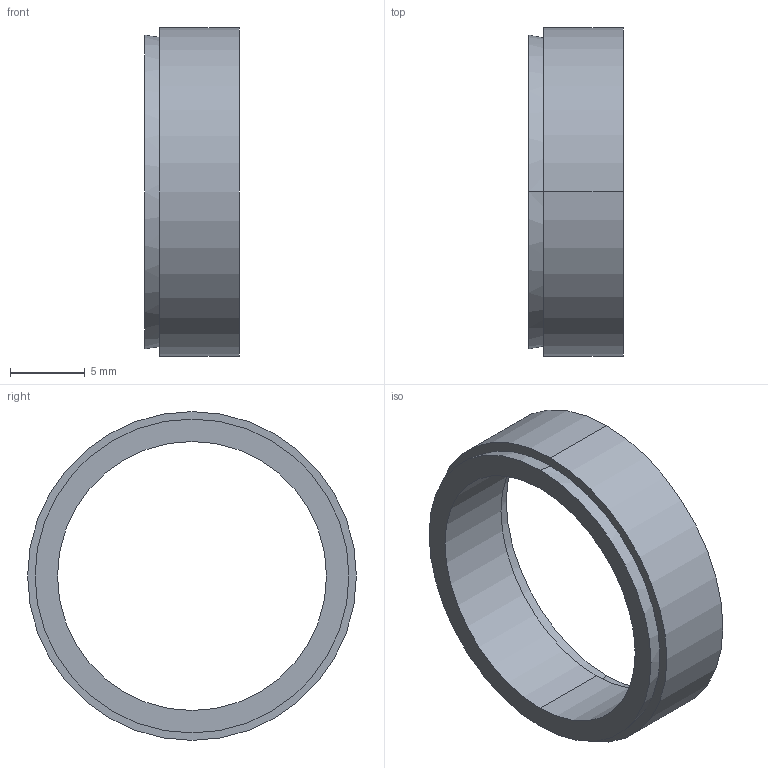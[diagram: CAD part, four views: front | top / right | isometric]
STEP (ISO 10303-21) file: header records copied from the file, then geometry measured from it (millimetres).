
FILE_DESCRIPTION (( 'STEP AP203' ), '1' );
FILE_NAME ('SC-18.STEP', '2009-09-29T15:55:31', ( 'USER' ), ( 'HOME' ), 'SwSTEP 2.0', 'SolidWorks 2007', '' );
FILE_SCHEMA (( 'CONFIG_CONTROL_DESIGN' ));
Length unit declared in the file: millimetre
Products named in the file (1): SC-18
Bounding box: 6.3 x 22 x 22 mm (x, y, z)
Volume: 718.9 mm3; surface area: 1611.6 mm2
Topology: 2 solids, 2 shells, 12 faces, 24 edges, 16 vertices
Faces by surface type: cone 4, cylinder 4, plane 4
Entity records: 407 total; most frequent: DIRECTION 66, CARTESIAN_POINT 53, ORIENTED_EDGE 48, AXIS2_PLACEMENT_3D 29, EDGE_CURVE 24, CIRCLE 16, EDGE_LOOP 16, VERTEX_POINT 16
